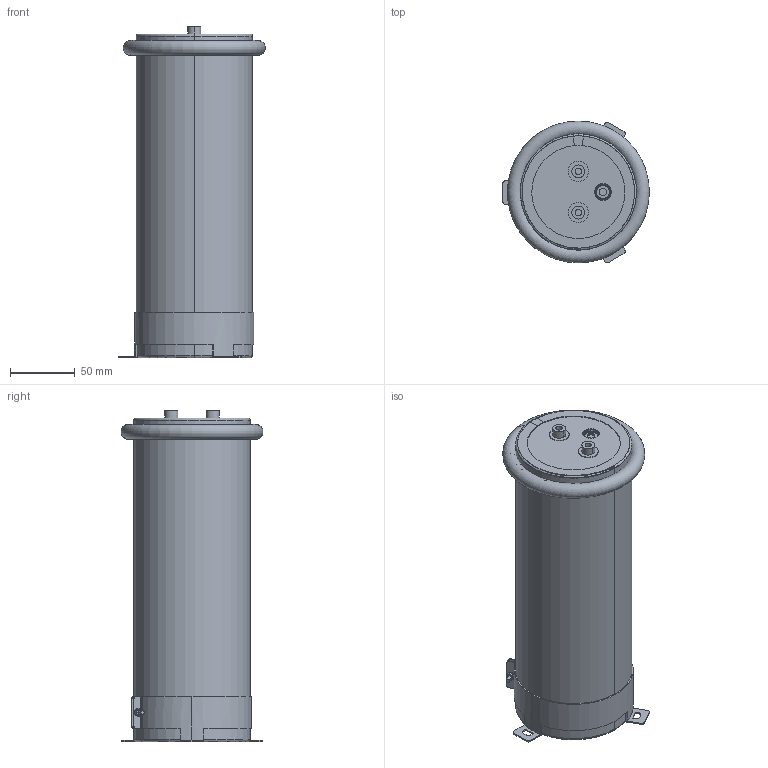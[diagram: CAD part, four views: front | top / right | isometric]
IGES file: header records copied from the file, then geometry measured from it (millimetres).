
Start section: 3D InterOp IGES (v. 2019 1.0.2), Spatial Corp. Copyright (c) 1999-2017.
Global section: file name: 90x250_Screw.igs; native system: Spatial Corp.; preprocessor: 3D InterOp ACIS/IGES; author: Noname; organization: Noname; date: 20220314.173909; units: millimetre
Bounding box: 113.35 x 109.7 x 256 mm (x, y, z)
Volume: 1935118.9 mm3; surface area: 391625.3 mm2
Topology: 9 solids, 9 shells, 352 faces, 953 edges, 591 vertices
Faces by surface type: plane 112, cylinder 110, torus 90, cone 38, sphere 2
